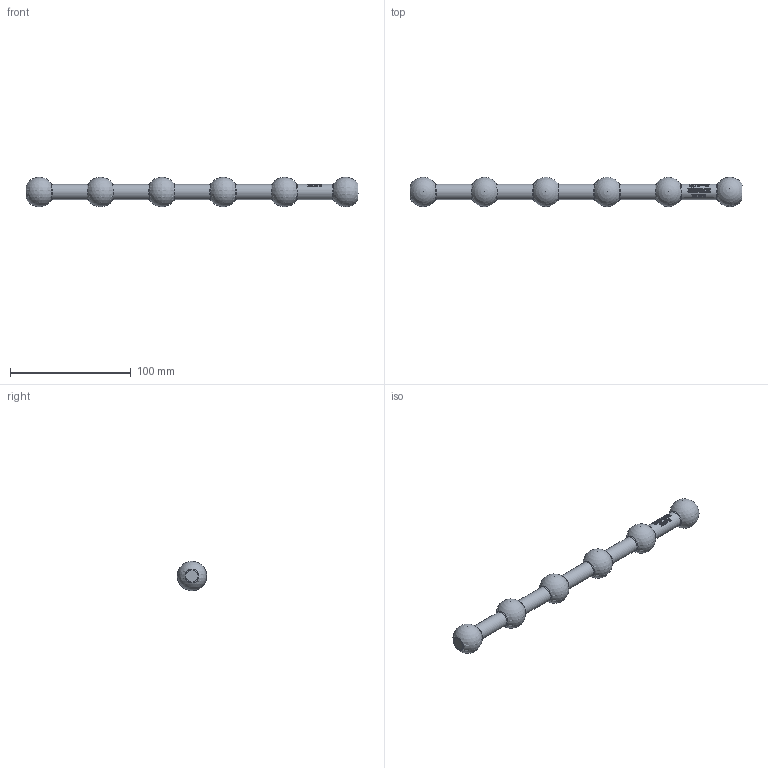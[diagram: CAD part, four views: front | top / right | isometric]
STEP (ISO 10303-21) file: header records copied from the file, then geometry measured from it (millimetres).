
FILE_DESCRIPTION(/* description */ (''),/* implementation_level */ '2;1');
FILE_NAME(/* name */ 'C:\Users\owner\Desktop\PL-HYPERLINKS_3D_stp\PL-HLINK10IN.stp',/* time_stamp */ '2017-09-29T15:00:39-04:00',/* author */ ('owner'),/* organization */ (''),/* preprocessor_version */ 'ST-DEVELOPER v16.5',/* originating_system */ 'Autodesk Inventor 2017',/* authorisation */ '');
FILE_SCHEMA (('CONFIG_CONTROL_DESIGN'));
Length unit declared in the file: inch
Products named in the file (4): PL-HLINK10IN; 60032; 60033-1; 60033-2
Assembly tree (6 placements, depth 2):
  PL-HLINK10IN
    60033-1  x4
    60032
    60033-2
Bounding box: 274.97 x 24.27 x 24.37 mm (x, y, z)
Volume: 61134 mm3; surface area: 21381.8 mm2
Topology: 6 solids, 6 shells, 796 faces, 2117 edges, 1403 vertices
Faces by surface type: plane 362, bspline 304, cylinder 86, torus 21, cone 17, sphere 6
Full cylindrical faces by diameter (mm): 9.487 x5, 9.525 x6, 9.588 x5, 12.611 x5
Entity records: 29066 total; most frequent: CARTESIAN_POINT 11944, ORIENTED_EDGE 3956, DIRECTION 2708, EDGE_CURVE 1978, VERTEX_POINT 1326, LINE 966, VECTOR 966, AXIS2_PLACEMENT_3D 871
